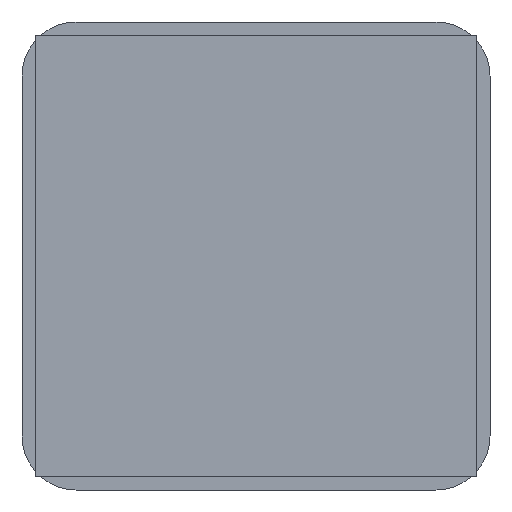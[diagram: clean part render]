
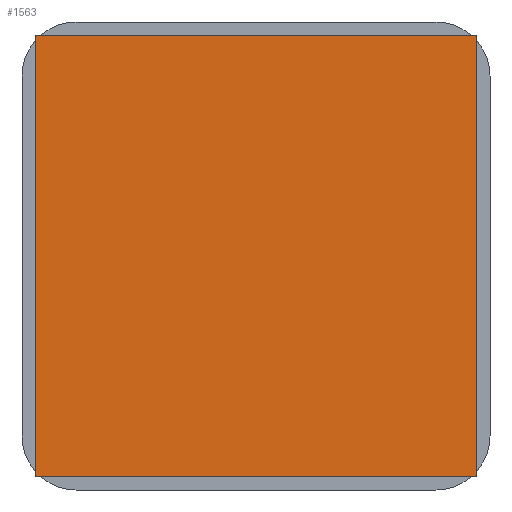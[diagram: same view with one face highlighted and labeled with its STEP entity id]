
A CAD part, front view. The second image highlights one B-rep face of the part: STEP entity #1563.
In plain terms, the highlighted planar face has unit normal (0, -1, 0).
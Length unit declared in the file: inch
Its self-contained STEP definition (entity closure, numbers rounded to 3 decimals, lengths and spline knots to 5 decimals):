
#90 = VERTEX_POINT ( 'NONE', #3772 ) ;
#156 = ORIENTED_EDGE ( 'NONE', *, *, #3685, .F. ) ;
#436 = DIRECTION ( 'NONE',  ( 0., 0., 1. ) ) ;
#480 = CARTESIAN_POINT ( 'NONE',  ( -0.5315, -0.005, 0.5315 ) ) ;
#629 = DIRECTION ( 'NONE',  ( -1., 0., 0. ) ) ;
#1293 = VERTEX_POINT ( 'NONE', #7328 ) ;
#1528 = CARTESIAN_POINT ( 'NONE',  ( -0.5315, -0.005, 0.5315 ) ) ;
#1563 = ADVANCED_FACE ( 'NONE', ( #3573 ), #4148, .F. ) ;
#1565 = ORIENTED_EDGE ( 'NONE', *, *, #3218, .F. ) ;
#1951 = CARTESIAN_POINT ( 'NONE',  ( 0.5315, -0.005, -0.5315 ) ) ;
#2195 = CARTESIAN_POINT ( 'NONE',  ( 0.5315, -0.005, -0.5315 ) ) ;
#2337 = VECTOR ( 'NONE', #436, 39.37008 ) ;
#2595 = LINE ( 'NONE', #1951, #6145 ) ;
#2730 = ORIENTED_EDGE ( 'NONE', *, *, #5756, .F. ) ;
#3119 = ORIENTED_EDGE ( 'NONE', *, *, #4339, .F. ) ;
#3218 = EDGE_CURVE ( 'NONE', #8389, #90, #8455, .T. ) ;
#3423 = AXIS2_PLACEMENT_3D ( 'NONE', #1528, #4838, #4265 ) ;
#3573 = FACE_OUTER_BOUND ( 'NONE', #8531, .T. ) ;
#3685 = EDGE_CURVE ( 'NONE', #5190, #8389, #6622, .T. ) ;
#3772 = CARTESIAN_POINT ( 'NONE',  ( -0.5315, -0.005, 0.5315 ) ) ;
#4042 = VECTOR ( 'NONE', #629, 39.37008 ) ;
#4148 = PLANE ( 'NONE',  #3423 ) ;
#4265 = DIRECTION ( 'NONE',  ( 0., 0., 1. ) ) ;
#4276 = LINE ( 'NONE', #480, #7095 ) ;
#4339 = EDGE_CURVE ( 'NONE', #90, #1293, #4276, .T. ) ;
#4586 = DIRECTION ( 'NONE',  ( 0., 0., -1. ) ) ;
#4838 = DIRECTION ( 'NONE',  ( 0., 1., 0. ) ) ;
#5190 = VERTEX_POINT ( 'NONE', #2195 ) ;
#5756 = EDGE_CURVE ( 'NONE', #1293, #5190, #2595, .T. ) ;
#6145 = VECTOR ( 'NONE', #4586, 39.37008 ) ;
#6622 = LINE ( 'NONE', #7240, #4042 ) ;
#6973 = DIRECTION ( 'NONE',  ( 1., 0., 0. ) ) ;
#7095 = VECTOR ( 'NONE', #6973, 39.37008 ) ;
#7206 = CARTESIAN_POINT ( 'NONE',  ( -0.5315, -0.005, -0.5315 ) ) ;
#7240 = CARTESIAN_POINT ( 'NONE',  ( -0.5315, -0.005, -0.5315 ) ) ;
#7328 = CARTESIAN_POINT ( 'NONE',  ( 0.5315, -0.005, 0.5315 ) ) ;
#8389 = VERTEX_POINT ( 'NONE', #8627 ) ;
#8455 = LINE ( 'NONE', #7206, #2337 ) ;
#8531 = EDGE_LOOP ( 'NONE', ( #1565, #156, #2730, #3119 ) ) ;
#8627 = CARTESIAN_POINT ( 'NONE',  ( -0.5315, -0.005, -0.5315 ) ) ;
